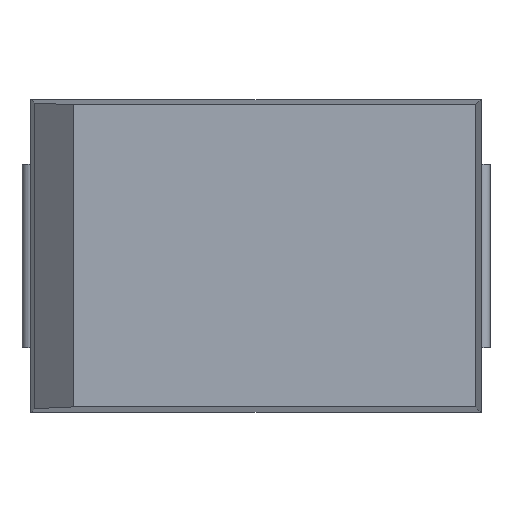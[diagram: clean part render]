
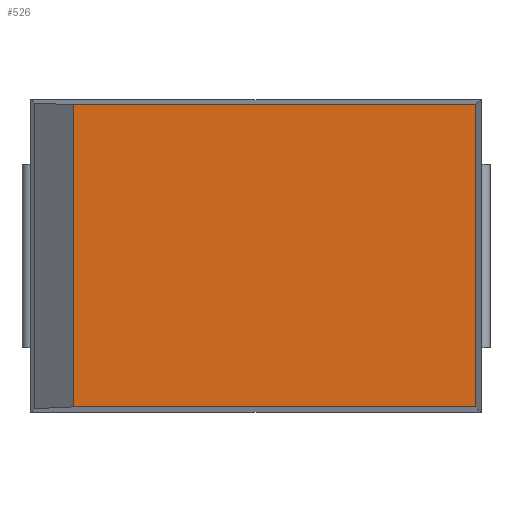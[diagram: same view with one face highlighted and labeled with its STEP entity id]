
A CAD part, top view. The second image highlights one B-rep face of the part: STEP entity #526.
In plain terms, the highlighted planar face has unit normal (0, 0, 1).
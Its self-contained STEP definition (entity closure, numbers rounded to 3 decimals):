
#63 = PLANE('',#64);
#64 = AXIS2_PLACEMENT_3D('',#65,#66,#67);
#65 = CARTESIAN_POINT('',(-2.52,-1.721,1.802));
#66 = DIRECTION('',(0.,0.999,-0.046));
#67 = DIRECTION('',(-1.,-0.,-0.));
#119 = PLANE('',#120);
#120 = AXIS2_PLACEMENT_3D('',#121,#122,#123);
#121 = CARTESIAN_POINT('',(-2.52,1.721,1.802));
#122 = DIRECTION('',(0.,0.999,0.046));
#123 = DIRECTION('',(-1.,0.,0.));
#145 = PLANE('',#146);
#146 = AXIS2_PLACEMENT_3D('',#147,#148,#149);
#147 = CARTESIAN_POINT('',(-2.261,-1.692,2.23));
#148 = DIRECTION('',(0.691,0.,-0.723));
#149 = DIRECTION('',(0.,1.,0.));
#190 = VERTEX_POINT('',#191);
#191 = CARTESIAN_POINT('',(2.462,-1.692,2.44));
#205 = PLANE('',#206);
#206 = AXIS2_PLACEMENT_3D('',#207,#208,#209);
#207 = CARTESIAN_POINT('',(2.491,-1.75,1.802));
#208 = DIRECTION('',(0.999,0.,0.046));
#209 = DIRECTION('',(0.,1.,0.));
#217 = EDGE_CURVE('',#218,#190,#220,.T.);
#218 = VERTEX_POINT('',#219);
#219 = CARTESIAN_POINT('',(-2.042,-1.692,2.44));
#220 = SURFACE_CURVE('',#221,(#225,#232),.PCURVE_S1.);
#221 = LINE('',#222,#223);
#222 = CARTESIAN_POINT('',(-2.52,-1.692,2.44));
#223 = VECTOR('',#224,1.);
#224 = DIRECTION('',(1.,0.,0.));
#225 = PCURVE('',#63,#226);
#226 = DEFINITIONAL_REPRESENTATION('',(#227),#231);
#227 = LINE('',#228,#229);
#228 = CARTESIAN_POINT('',(-0.,0.639));
#229 = VECTOR('',#230,1.);
#230 = DIRECTION('',(-1.,0.));
#231 = ( GEOMETRIC_REPRESENTATION_CONTEXT(2) 
PARAMETRIC_REPRESENTATION_CONTEXT() REPRESENTATION_CONTEXT('2D SPACE',''
  ) );
#232 = PCURVE('',#233,#238);
#233 = PLANE('',#234);
#234 = AXIS2_PLACEMENT_3D('',#235,#236,#237);
#235 = CARTESIAN_POINT('',(-2.52,-1.75,2.44));
#236 = DIRECTION('',(0.,0.,1.));
#237 = DIRECTION('',(1.,0.,0.));
#238 = DEFINITIONAL_REPRESENTATION('',(#239),#243);
#239 = LINE('',#240,#241);
#240 = CARTESIAN_POINT('',(0.,0.059));
#241 = VECTOR('',#242,1.);
#242 = DIRECTION('',(1.,0.));
#243 = ( GEOMETRIC_REPRESENTATION_CONTEXT(2) 
PARAMETRIC_REPRESENTATION_CONTEXT() REPRESENTATION_CONTEXT('2D SPACE',''
  ) );
#272 = VERTEX_POINT('',#273);
#273 = CARTESIAN_POINT('',(-2.042,1.692,2.44));
#294 = EDGE_CURVE('',#218,#272,#295,.T.);
#295 = SURFACE_CURVE('',#296,(#300,#307),.PCURVE_S1.);
#296 = LINE('',#297,#298);
#297 = CARTESIAN_POINT('',(-2.042,-1.692,2.44));
#298 = VECTOR('',#299,1.);
#299 = DIRECTION('',(0.,1.,0.));
#300 = PCURVE('',#145,#301);
#301 = DEFINITIONAL_REPRESENTATION('',(#302),#306);
#302 = LINE('',#303,#304);
#303 = CARTESIAN_POINT('',(0.,0.304));
#304 = VECTOR('',#305,1.);
#305 = DIRECTION('',(1.,0.));
#306 = ( GEOMETRIC_REPRESENTATION_CONTEXT(2) 
PARAMETRIC_REPRESENTATION_CONTEXT() REPRESENTATION_CONTEXT('2D SPACE',''
  ) );
#307 = PCURVE('',#233,#308);
#308 = DEFINITIONAL_REPRESENTATION('',(#309),#313);
#309 = LINE('',#310,#311);
#310 = CARTESIAN_POINT('',(0.479,0.059));
#311 = VECTOR('',#312,1.);
#312 = DIRECTION('',(0.,1.));
#313 = ( GEOMETRIC_REPRESENTATION_CONTEXT(2) 
PARAMETRIC_REPRESENTATION_CONTEXT() REPRESENTATION_CONTEXT('2D SPACE',''
  ) );
#424 = VERTEX_POINT('',#425);
#425 = CARTESIAN_POINT('',(2.462,1.692,2.44));
#446 = EDGE_CURVE('',#272,#424,#447,.T.);
#447 = SURFACE_CURVE('',#448,(#452,#459),.PCURVE_S1.);
#448 = LINE('',#449,#450);
#449 = CARTESIAN_POINT('',(-2.52,1.692,2.44));
#450 = VECTOR('',#451,1.);
#451 = DIRECTION('',(1.,0.,0.));
#452 = PCURVE('',#119,#453);
#453 = DEFINITIONAL_REPRESENTATION('',(#454),#458);
#454 = LINE('',#455,#456);
#455 = CARTESIAN_POINT('',(-0.,0.639));
#456 = VECTOR('',#457,1.);
#457 = DIRECTION('',(-1.,0.));
#458 = ( GEOMETRIC_REPRESENTATION_CONTEXT(2) 
PARAMETRIC_REPRESENTATION_CONTEXT() REPRESENTATION_CONTEXT('2D SPACE',''
  ) );
#459 = PCURVE('',#233,#460);
#460 = DEFINITIONAL_REPRESENTATION('',(#461),#465);
#461 = LINE('',#462,#463);
#462 = CARTESIAN_POINT('',(0.,3.442));
#463 = VECTOR('',#464,1.);
#464 = DIRECTION('',(1.,0.));
#465 = ( GEOMETRIC_REPRESENTATION_CONTEXT(2) 
PARAMETRIC_REPRESENTATION_CONTEXT() REPRESENTATION_CONTEXT('2D SPACE',''
  ) );
#526 = ADVANCED_FACE('',(#527),#233,.T.);
#527 = FACE_BOUND('',#528,.T.);
#528 = EDGE_LOOP('',(#529,#530,#551,#552));
#529 = ORIENTED_EDGE('',*,*,#217,.T.);
#530 = ORIENTED_EDGE('',*,*,#531,.T.);
#531 = EDGE_CURVE('',#190,#424,#532,.T.);
#532 = SURFACE_CURVE('',#533,(#537,#544),.PCURVE_S1.);
#533 = LINE('',#534,#535);
#534 = CARTESIAN_POINT('',(2.462,-1.75,2.44));
#535 = VECTOR('',#536,1.);
#536 = DIRECTION('',(0.,1.,0.));
#537 = PCURVE('',#233,#538);
#538 = DEFINITIONAL_REPRESENTATION('',(#539),#543);
#539 = LINE('',#540,#541);
#540 = CARTESIAN_POINT('',(4.982,0.));
#541 = VECTOR('',#542,1.);
#542 = DIRECTION('',(0.,1.));
#543 = ( GEOMETRIC_REPRESENTATION_CONTEXT(2) 
PARAMETRIC_REPRESENTATION_CONTEXT() REPRESENTATION_CONTEXT('2D SPACE',''
  ) );
#544 = PCURVE('',#205,#545);
#545 = DEFINITIONAL_REPRESENTATION('',(#546),#550);
#546 = LINE('',#547,#548);
#547 = CARTESIAN_POINT('',(0.,0.639));
#548 = VECTOR('',#549,1.);
#549 = DIRECTION('',(1.,0.));
#550 = ( GEOMETRIC_REPRESENTATION_CONTEXT(2) 
PARAMETRIC_REPRESENTATION_CONTEXT() REPRESENTATION_CONTEXT('2D SPACE',''
  ) );
#551 = ORIENTED_EDGE('',*,*,#446,.F.);
#552 = ORIENTED_EDGE('',*,*,#294,.F.);
